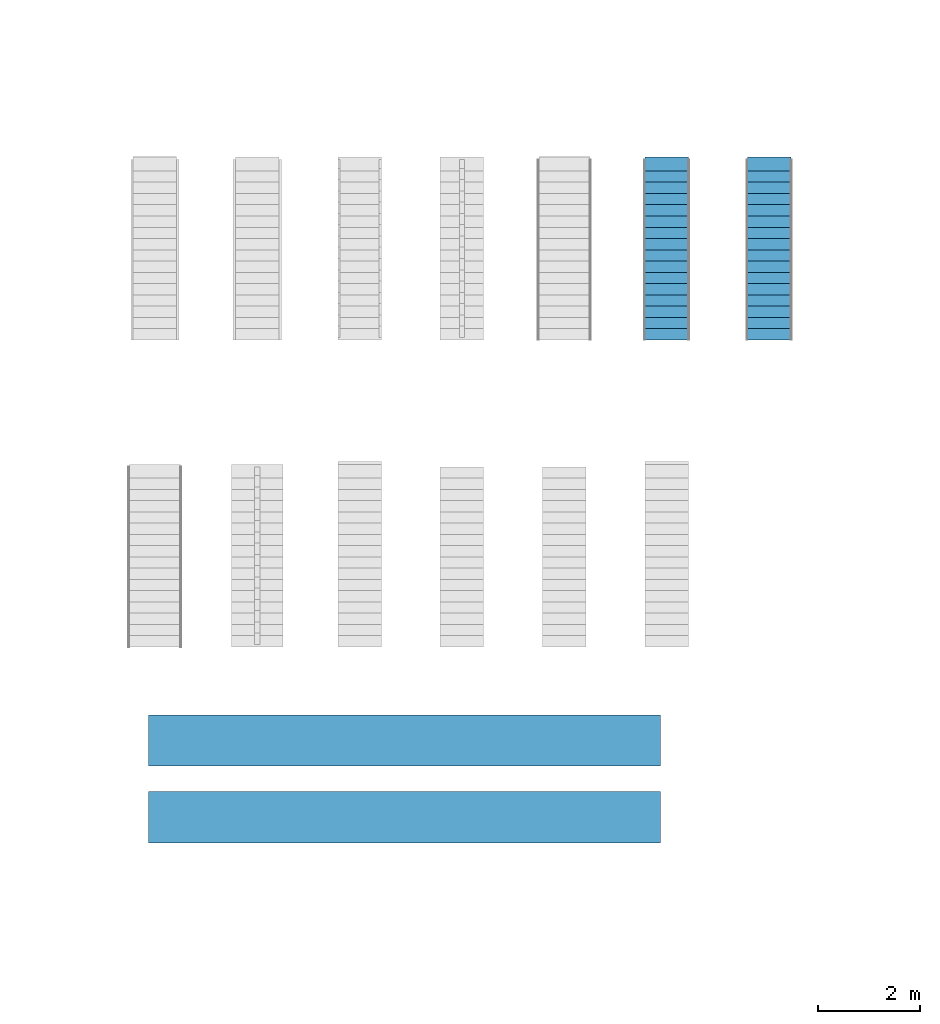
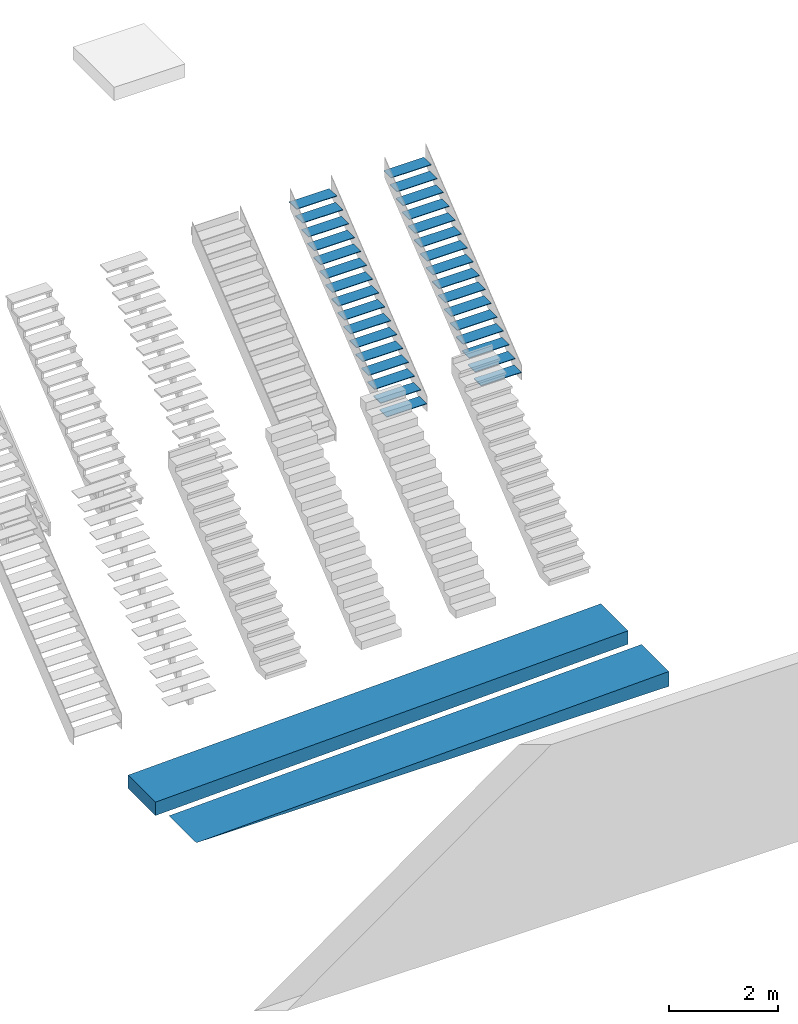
# One storey, part 7 of 13: 2 ramp flights, 2 stair flights, 4 elements without a shape of their own.
"""IFC2X3 building model written with IfcOpenShell, lengths in millimetres."""

from ifc_helpers import new_model, entity, si_unit, converted_unit, derived_unit, direction, frame, frame_2d, origin, origin_2d_with_axis, place, context, subcontext, project, spatial, polyline, rectangle, outline, extrude, material, element, aggregate, save


model = new_model("IFC2X3")

# Units and contexts
model_context = context("Model", 3, precision=0.01, world=origin(), true_north=direction((6.12303176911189e-17, 1.0)))
body_context = subcontext(model_context, "Body", "Model", "MODEL_VIEW")
ifc_project = project(units=[si_unit("LENGTHUNIT", "METRE", prefix="MILLI"), si_unit("AREAUNIT", "SQUARE_METRE"), si_unit("VOLUMEUNIT", "CUBIC_METRE"), converted_unit("PLANEANGLEUNIT", "DEGREE", entity("IfcRatioMeasure", 0.0174532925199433), si_unit("PLANEANGLEUNIT", "RADIAN"), dimensions=[0, 0, 0, 0, 0, 0, 0]), si_unit("MASSUNIT", "GRAM", prefix="KILO"), si_unit("TIMEUNIT", "SECOND"), si_unit("FREQUENCYUNIT", "HERTZ"), si_unit("THERMODYNAMICTEMPERATUREUNIT", "KELVIN"), derived_unit("THERMALTRANSMITTANCEUNIT", [(si_unit("MASSUNIT", "GRAM", prefix="KILO"), 1), (si_unit("THERMODYNAMICTEMPERATUREUNIT", "KELVIN"), -1), (si_unit("TIMEUNIT", "SECOND"), -3)]), derived_unit("VOLUMETRICFLOWRATEUNIT", [(si_unit("LENGTHUNIT", "METRE"), 3), (si_unit("TIMEUNIT", "SECOND"), -1)]), si_unit("ELECTRICCURRENTUNIT", "AMPERE"), si_unit("ELECTRICVOLTAGEUNIT", "VOLT"), si_unit("POWERUNIT", "WATT")], contexts=[model_context])

# Site, building, storey
site_placement = place(None, origin())
site = spatial("IfcSite", under=ifc_project, at=site_placement, Name="Surface", CompositionType="ELEMENT")
building_placement = place(site_placement, origin())
building = spatial("IfcBuilding", under=site, at=building_placement, CompositionType="ELEMENT")
storey_placement = place(building_placement, origin())
storey = spatial("IfcBuildingStorey", under=building, at=storey_placement, Name="00_begane grond", CompositionType="ELEMENT", Elevation=0.0)

# Stair, stair flight
stair_1_placement = place(storey_placement, origin())
stair_1 = element("IfcStair", 1, at=stair_1_placement, inside=storey, Name="Assembled Stair:Stair", ShapeType="NOTDEFINED")
ifc_material_1 = material(Name="24_staal_gegalvaniseerd_rooster_generiek")
stair_flight_1_placement = place(stair_1_placement, frame((27349.8089026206, -25324.6322235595, 0.0)))
stair_flight_1 = element("IfcStairFlight", 2, at=stair_flight_1_placement, material=ifc_material_1, Name="Assembled Stair:Stair:69283 Run 1", ObjectType="Assembled Stair:24_ST_stalen trap_open_b=850_op=185_aan=150", NumberOfRiser=17, NumberOfTreads=16, RiserHeight=0.578971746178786, TreadLength=0.721784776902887, context=body_context, shape_type="SweptSolid", body=[
    extrude(rectangle(XDim=270.000000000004, YDim=849.999999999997, at=frame_2d((-2.1600499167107e-12, 0.0), x_axis=(1.0, 0.0))), frame((425.0, 135.0, 161.470588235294), z_axis=(0.0, 0.0, 1.0), x_axis=(0.0, -1.0, 0.0)), (0.0, 0.0, 1.0), 15.0),
    extrude(rectangle(XDim=269.999999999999, YDim=849.999999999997, at=origin_2d_with_axis()), frame((425.0, 355.0, 337.941176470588), z_axis=(0.0, 0.0, 1.0), x_axis=(0.0, -1.0, 0.0)), (0.0, 0.0, 1.0), 15.0),
    extrude(rectangle(XDim=270.000000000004, YDim=849.999999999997, at=frame_2d((2.1600499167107e-12, 0.0), x_axis=(1.0, 0.0))), frame((425.0, 575.0, 514.411764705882), z_axis=(0.0, 0.0, 1.0), x_axis=(0.0, -1.0, 0.0)), (0.0, 0.0, 1.0), 15.0),
    extrude(rectangle(XDim=269.999999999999, YDim=849.999999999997, at=origin_2d_with_axis()), frame((425.0, 795.0, 690.882352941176), z_axis=(0.0, 0.0, 1.0), x_axis=(0.0, -1.0, 0.0)), (0.0, 0.0, 1.0), 15.0),
    extrude(rectangle(XDim=270.000000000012, YDim=849.999999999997, at=frame_2d((-2.17426077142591e-12, 0.0), x_axis=(1.0, 0.0))), frame((425.0, 1015.0, 867.35294117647), z_axis=(0.0, 0.0, 1.0), x_axis=(0.0, -1.0, 0.0)), (0.0, 0.0, 1.0), 15.0),
    extrude(rectangle(XDim=269.999999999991, YDim=849.999999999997, at=frame_2d((4.33431068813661e-12, -2.1600499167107e-12), x_axis=(1.0, 0.0))), frame((425.0, 1235.0, 1043.82352941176), z_axis=(0.0, 0.0, 1.0), x_axis=(0.0, -1.0, 0.0)), (0.0, 0.0, 1.0), 15.0),
    extrude(rectangle(XDim=270.000000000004, YDim=849.999999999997, at=frame_2d((2.1600499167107e-12, 0.0), x_axis=(1.0, 0.0))), frame((425.0, 1455.0, 1220.29411764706), z_axis=(0.0, 0.0, 1.0), x_axis=(0.0, -1.0, 0.0)), (0.0, 0.0, 1.0), 15.0000000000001),
    extrude(rectangle(XDim=269.999999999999, YDim=849.999999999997, at=origin_2d_with_axis()), frame((425.0, 1675.0, 1396.76470588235), z_axis=(0.0, 0.0, 1.0), x_axis=(0.0, -1.0, 0.0)), (0.0, 0.0, 1.0), 15.0000000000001),
    extrude(rectangle(XDim=270.000000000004, YDim=849.999999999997, at=frame_2d((-2.1600499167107e-12, 0.0), x_axis=(1.0, 0.0))), frame((425.0, 1895.0, 1573.23529411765), z_axis=(0.0, 0.0, 1.0), x_axis=(0.0, -1.0, 0.0)), (0.0, 0.0, 1.0), 15.0000000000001),
    extrude(rectangle(XDim=269.999999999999, YDim=849.999999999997, at=origin_2d_with_axis()), frame((425.0, 2115.0, 1749.70588235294), z_axis=(0.0, 0.0, 1.0), x_axis=(0.0, -1.0, 0.0)), (0.0, 0.0, 1.0), 15.0000000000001),
    extrude(rectangle(XDim=270.000000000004, YDim=849.999999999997, at=frame_2d((2.1600499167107e-12, 0.0), x_axis=(1.0, 0.0))), frame((425.0, 2335.0, 1926.17647058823), z_axis=(0.0, 0.0, 1.0), x_axis=(0.0, -1.0, 0.0)), (0.0, 0.0, 1.0), 15.0000000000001),
    extrude(rectangle(XDim=270.000000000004, YDim=849.999999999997, at=frame_2d((2.1600499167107e-12, 0.0), x_axis=(1.0, 0.0))), frame((425.0, 2555.0, 2102.64705882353), z_axis=(0.0, 0.0, 1.0), x_axis=(0.0, -1.0, 0.0)), (0.0, 0.0, 1.0), 15.0000000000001),
    extrude(rectangle(XDim=269.999999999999, YDim=849.999999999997, at=origin_2d_with_axis()), frame((425.0, 2775.0, 2279.11764705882), z_axis=(0.0, 0.0, 1.0), x_axis=(0.0, -1.0, 0.0)), (0.0, 0.0, 1.0), 15.0000000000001),
    extrude(rectangle(XDim=270.000000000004, YDim=849.999999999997, at=frame_2d((-2.1600499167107e-12, 0.0), x_axis=(1.0, 0.0))), frame((425.0, 2995.0, 2455.58823529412), z_axis=(0.0, 0.0, 1.0), x_axis=(0.0, -1.0, 0.0)), (0.0, 0.0, 1.0), 14.9999999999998),
    extrude(rectangle(XDim=269.999999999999, YDim=849.999999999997, at=origin_2d_with_axis()), frame((425.0, 3215.0, 2632.05882352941), z_axis=(0.0, 0.0, 1.0), x_axis=(0.0, -1.0, 0.0)), (0.0, 0.0, 1.0), 14.9999999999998),
    extrude(rectangle(XDim=270.000000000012, YDim=849.999999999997, at=frame_2d((-6.49436060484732e-12, 0.0), x_axis=(1.0, 0.0))), frame((425.0, 3435.0, 2808.5294117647), z_axis=(0.0, 0.0, 1.0), x_axis=(0.0, -1.0, 0.0)), (0.0, 0.0, 1.0), 14.9999999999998),
])
aggregate(stair_1, [stair_flight_1])

stair_2_placement = place(storey_placement, origin())
stair_2 = element("IfcStair", 3, at=stair_2_placement, inside=storey, Name="Assembled Stair:Stair", ShapeType="NOTDEFINED")
stair_flight_2_placement = place(stair_2_placement, frame((29349.8089026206, -25324.6322235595, 0.0)))
stair_flight_2 = element("IfcStairFlight", 4, at=stair_flight_2_placement, material=ifc_material_1, Name="Assembled Stair:Stair:69288 Run 1", ObjectType="Assembled Stair:24_ST_stalen trap_open_b=850_op=185_aan=220", NumberOfRiser=17, NumberOfTreads=16, RiserHeight=0.578971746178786, TreadLength=0.721784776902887, context=body_context, shape_type="SweptSolid", body=[
    extrude(rectangle(XDim=270.000000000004, YDim=849.999999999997, at=frame_2d((-2.1600499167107e-12, 0.0), x_axis=(1.0, 0.0))), frame((425.0, 135.0, 161.470588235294), z_axis=(0.0, 0.0, 1.0), x_axis=(0.0, -1.0, 0.0)), (0.0, 0.0, 1.0), 15.0),
    extrude(rectangle(XDim=269.999999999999, YDim=849.999999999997, at=origin_2d_with_axis()), frame((425.0, 355.0, 337.941176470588), z_axis=(0.0, 0.0, 1.0), x_axis=(0.0, -1.0, 0.0)), (0.0, 0.0, 1.0), 15.0),
    extrude(rectangle(XDim=270.000000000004, YDim=849.999999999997, at=frame_2d((2.1600499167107e-12, 0.0), x_axis=(1.0, 0.0))), frame((425.0, 575.0, 514.411764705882), z_axis=(0.0, 0.0, 1.0), x_axis=(0.0, -1.0, 0.0)), (0.0, 0.0, 1.0), 15.0),
    extrude(rectangle(XDim=269.999999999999, YDim=849.999999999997, at=origin_2d_with_axis()), frame((425.0, 795.0, 690.882352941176), z_axis=(0.0, 0.0, 1.0), x_axis=(0.0, -1.0, 0.0)), (0.0, 0.0, 1.0), 15.0),
    extrude(rectangle(XDim=270.000000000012, YDim=849.999999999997, at=frame_2d((-6.49436060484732e-12, 0.0), x_axis=(1.0, 0.0))), frame((425.0, 1015.0, 867.35294117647), z_axis=(0.0, 0.0, 1.0), x_axis=(0.0, -1.0, 0.0)), (0.0, 0.0, 1.0), 15.0),
    extrude(rectangle(XDim=269.999999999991, YDim=849.999999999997, at=frame_2d((4.33431068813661e-12, -2.1600499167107e-12), x_axis=(1.0, 0.0))), frame((425.0, 1235.0, 1043.82352941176), z_axis=(0.0, 0.0, 1.0), x_axis=(0.0, -1.0, 0.0)), (0.0, 0.0, 1.0), 15.0),
    extrude(rectangle(XDim=270.000000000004, YDim=849.999999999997, at=frame_2d((2.1600499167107e-12, 0.0), x_axis=(1.0, 0.0))), frame((425.0, 1455.0, 1220.29411764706), z_axis=(0.0, 0.0, 1.0), x_axis=(0.0, -1.0, 0.0)), (0.0, 0.0, 1.0), 15.0000000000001),
    extrude(rectangle(XDim=269.999999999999, YDim=849.999999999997, at=origin_2d_with_axis()), frame((425.0, 1675.0, 1396.76470588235), z_axis=(0.0, 0.0, 1.0), x_axis=(0.0, -1.0, 0.0)), (0.0, 0.0, 1.0), 15.0000000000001),
    extrude(rectangle(XDim=270.000000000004, YDim=849.999999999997, at=frame_2d((-2.1600499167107e-12, 0.0), x_axis=(1.0, 0.0))), frame((425.0, 1895.0, 1573.23529411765), z_axis=(0.0, 0.0, 1.0), x_axis=(0.0, -1.0, 0.0)), (0.0, 0.0, 1.0), 15.0000000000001),
    extrude(rectangle(XDim=269.999999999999, YDim=849.999999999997, at=origin_2d_with_axis()), frame((425.0, 2115.0, 1749.70588235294), z_axis=(0.0, 0.0, 1.0), x_axis=(0.0, -1.0, 0.0)), (0.0, 0.0, 1.0), 15.0000000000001),
    extrude(rectangle(XDim=270.000000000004, YDim=849.999999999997, at=frame_2d((2.1600499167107e-12, 0.0), x_axis=(1.0, 0.0))), frame((425.0, 2335.0, 1926.17647058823), z_axis=(0.0, 0.0, 1.0), x_axis=(0.0, -1.0, 0.0)), (0.0, 0.0, 1.0), 15.0000000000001),
    extrude(rectangle(XDim=270.000000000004, YDim=849.999999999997, at=frame_2d((2.1600499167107e-12, 0.0), x_axis=(1.0, 0.0))), frame((425.0, 2555.0, 2102.64705882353), z_axis=(0.0, 0.0, 1.0), x_axis=(0.0, -1.0, 0.0)), (0.0, 0.0, 1.0), 15.0000000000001),
    extrude(rectangle(XDim=269.999999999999, YDim=849.999999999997, at=origin_2d_with_axis()), frame((425.0, 2775.0, 2279.11764705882), z_axis=(0.0, 0.0, 1.0), x_axis=(0.0, -1.0, 0.0)), (0.0, 0.0, 1.0), 15.0000000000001),
    extrude(rectangle(XDim=270.000000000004, YDim=849.999999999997, at=frame_2d((-2.1600499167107e-12, 0.0), x_axis=(1.0, 0.0))), frame((425.0, 2995.0, 2455.58823529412), z_axis=(0.0, 0.0, 1.0), x_axis=(0.0, -1.0, 0.0)), (0.0, 0.0, 1.0), 14.9999999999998),
    extrude(rectangle(XDim=269.999999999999, YDim=849.999999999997, at=origin_2d_with_axis()), frame((425.0, 3215.0, 2632.05882352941), z_axis=(0.0, 0.0, 1.0), x_axis=(0.0, -1.0, 0.0)), (0.0, 0.0, 1.0), 14.9999999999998),
    extrude(rectangle(XDim=270.000000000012, YDim=849.999999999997, at=frame_2d((-6.49436060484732e-12, 0.0), x_axis=(1.0, 0.0))), frame((425.0, 3435.0, 2808.5294117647), z_axis=(0.0, 0.0, 1.0), x_axis=(0.0, -1.0, 0.0)), (0.0, 0.0, 1.0), 14.9999999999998),
])
aggregate(stair_2, [stair_flight_2])

# Ramp, ramp flight
ramp_1_placement = place(storey_placement, origin())
ramp_1 = element("IfcRamp", 5, at=ramp_1_placement, inside=storey, Name="Ramp:24_RA_hellingbaan_beton_prefab_300", ObjectType="Ramp:24_RA_hellingbaan_beton_prefab_300:1413", ShapeType="NOTDEFINED")
ifc_material_2 = material(Name="24_beton_prefab_generiek")
ramp_flight_1_placement = place(ramp_1_placement, origin())
ramp_flight_1 = element("IfcRampFlight", 6, at=ramp_flight_1_placement, material=ifc_material_2, Name="Ramp:24_RA_hellingbaan_beton_prefab_300:1", ObjectType="Ramp:24_RA_hellingbaan_beton_prefab_300:1413", context=body_context, shape_type="SweptSolid", body=[
    extrude(outline(polyline([(-316.749976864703, -5000.0), (-16.5833564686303, -5000.0), (316.749976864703, 5000.0), (16.5833564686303, 5000.0), (-316.749976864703, -5000.0)])), frame((22650.3204725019, -33650.6479444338, 16.5833564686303), z_axis=(0.0, 1.0, 0.0), x_axis=(0.0, 0.0, -1.0)), (0.0, 0.0, 1.0), 999.999999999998),
])
aggregate(ramp_1, [ramp_flight_1])

ramp_2_placement = place(storey_placement, origin())
ramp_2 = element("IfcRamp", 7, at=ramp_2_placement, inside=storey, Name="Ramp:24_RA_hellingbaan_beton_prefab_solid", ObjectType="Ramp:24_RA_hellingbaan_beton_prefab_solid", ShapeType="NOTDEFINED")
ramp_flight_2_placement = place(ramp_2_placement, origin())
ramp_flight_2 = element("IfcRampFlight", 8, at=ramp_flight_2_placement, material=ifc_material_2, Name="Ramp:24_RA_hellingbaan_beton_prefab_solid:1", ObjectType="Ramp:24_RA_hellingbaan_beton_prefab_solid", context=body_context, shape_type="SweptSolid", body=[
    extrude(outline(polyline([(-222.222222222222, -3333.33333333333), (111.111111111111, -3333.33333333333), (111.111111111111, 6666.66666666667), (-222.222222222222, -3333.33333333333)])), frame((24316.9871391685, -35150.6479444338, 111.111111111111), z_axis=(0.0, 1.0, 0.0), x_axis=(0.0, 0.0, -1.0)), (0.0, 0.0, 1.0), 999.999999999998),
])
aggregate(ramp_2, [ramp_flight_2])

save(model, "model.ifc")
